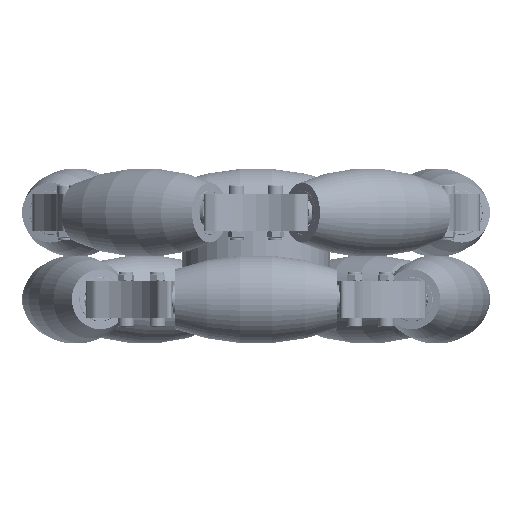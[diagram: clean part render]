
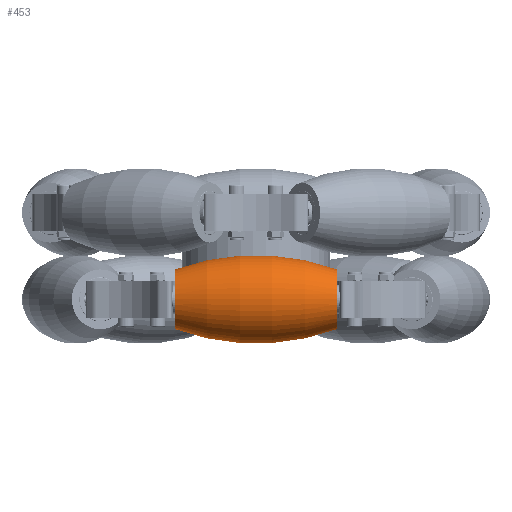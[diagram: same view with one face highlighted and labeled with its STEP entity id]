
A CAD part, front view. The second image highlights one B-rep face of the part: STEP entity #453.
In plain terms, the highlighted toroidal (fillet/blend) face has major radius 103 mm and minor radius 127 mm.
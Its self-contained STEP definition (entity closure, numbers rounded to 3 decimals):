
#453 = ADVANCED_FACE ( 'NONE', ( #13864 ), #13471, .T. ) ;
#597 = CARTESIAN_POINT ( 'NONE',  ( 0., 103., -103. ) ) ;
#651 = ORIENTED_EDGE ( 'NONE', *, *, #12136, .F. ) ;
#1054 = DIRECTION ( 'NONE',  ( -1., 0., 0. ) ) ;
#1110 = ORIENTED_EDGE ( 'NONE', *, *, #9417, .F. ) ;
#1570 = ORIENTED_EDGE ( 'NONE', *, *, #9522, .T. ) ;
#1597 = ORIENTED_EDGE ( 'NONE', *, *, #10980, .T. ) ;
#1822 = DIRECTION ( 'NONE',  ( 0., 0., -1. ) ) ;
#2086 = DIRECTION ( 'NONE',  ( -1., 0., 0. ) ) ;
#2744 = VERTEX_POINT ( 'NONE', #13241 ) ;
#2908 = AXIS2_PLACEMENT_3D ( 'NONE', #11600, #4181, #12809 ) ;
#3304 = CIRCLE ( 'NONE', #12497, 16.226 ) ;
#3651 = CARTESIAN_POINT ( 'NONE',  ( -43.75, 103., -16.226 ) ) ;
#3898 = CARTESIAN_POINT ( 'NONE',  ( 43.75, 103., -16.226 ) ) ;
#4181 = DIRECTION ( 'NONE',  ( 0., 1., 0. ) ) ;
#4744 = AXIS2_PLACEMENT_3D ( 'NONE', #10141, #14414, #5476 ) ;
#5476 = DIRECTION ( 'NONE',  ( 0., 0., 1. ) ) ;
#5874 = AXIS2_PLACEMENT_3D ( 'NONE', #9484, #2086, #10720 ) ;
#8442 = CARTESIAN_POINT ( 'NONE',  ( 43.75, 103., 0. ) ) ;
#9239 = DIRECTION ( 'NONE',  ( 0., -1., 0. ) ) ;
#9417 = EDGE_CURVE ( 'NONE', #2744, #11340, #10660, .T. ) ;
#9484 = CARTESIAN_POINT ( 'NONE',  ( -43.75, 103., 0. ) ) ;
#9522 = EDGE_CURVE ( 'NONE', #13875, #11491, #3304, .T. ) ;
#9697 = DIRECTION ( 'NONE',  ( 0., 0., 1. ) ) ;
#10141 = CARTESIAN_POINT ( 'NONE',  ( 0., 103., 0. ) ) ;
#10660 = CIRCLE ( 'NONE', #5874, 16.226 ) ;
#10706 = EDGE_LOOP ( 'NONE', ( #1570, #1597, #1110, #651 ) ) ;
#10720 = DIRECTION ( 'NONE',  ( 0., 0., 1. ) ) ;
#10980 = EDGE_CURVE ( 'NONE', #11491, #11340, #14678, .T. ) ;
#11340 = VERTEX_POINT ( 'NONE', #3651 ) ;
#11491 = VERTEX_POINT ( 'NONE', #3898 ) ;
#11600 = CARTESIAN_POINT ( 'NONE',  ( 0., 103., 103. ) ) ;
#12136 = EDGE_CURVE ( 'NONE', #13875, #2744, #12356, .T. ) ;
#12356 = CIRCLE ( 'NONE', #14088, 127. ) ;
#12497 = AXIS2_PLACEMENT_3D ( 'NONE', #8442, #1054, #9697 ) ;
#12809 = DIRECTION ( 'NONE',  ( 0., 0., 1. ) ) ;
#13044 = CARTESIAN_POINT ( 'NONE',  ( 43.75, 103., 16.226 ) ) ;
#13241 = CARTESIAN_POINT ( 'NONE',  ( -43.75, 103., 16.226 ) ) ;
#13471 = TOROIDAL_SURFACE ( 'NONE', #4744, -103., 127. ) ;
#13864 = FACE_OUTER_BOUND ( 'NONE', #10706, .T. ) ;
#13875 = VERTEX_POINT ( 'NONE', #13044 ) ;
#14088 = AXIS2_PLACEMENT_3D ( 'NONE', #597, #9239, #1822 ) ;
#14414 = DIRECTION ( 'NONE',  ( -1., 0., 0. ) ) ;
#14678 = CIRCLE ( 'NONE', #2908, 127. ) ;
